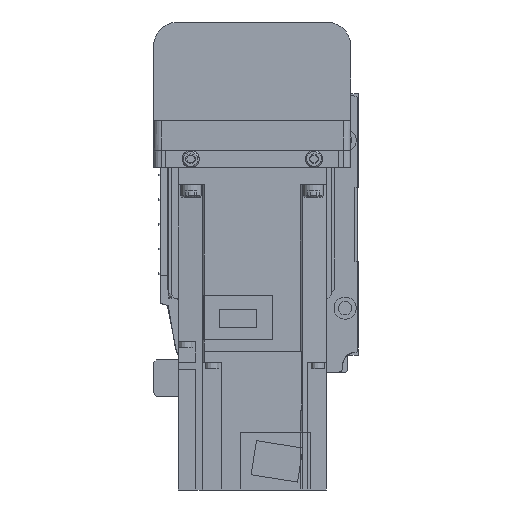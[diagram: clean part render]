
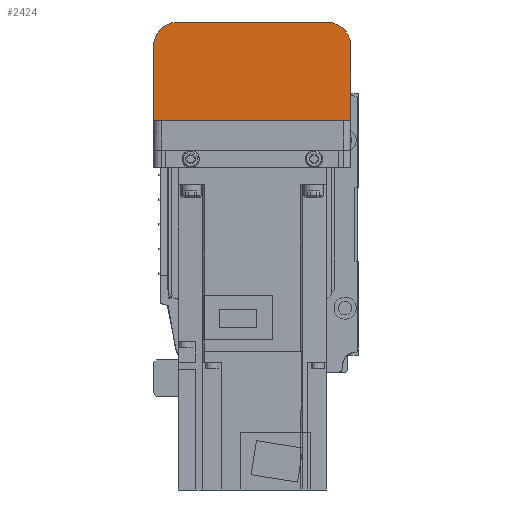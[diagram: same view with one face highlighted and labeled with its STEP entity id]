
A CAD part, left-side view. The second image highlights one B-rep face of the part: STEP entity #2424.
In plain terms, the highlighted planar face has unit normal (-1, 0, 0).
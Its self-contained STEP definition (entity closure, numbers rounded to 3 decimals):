
#2424 = ADVANCED_FACE( '', ( #5036 ), #5037, .F. );
#5036 = FACE_OUTER_BOUND( '', #7644, .T. );
#5037 = PLANE( '', #7645 );
#7644 = EDGE_LOOP( '', ( #14178, #14179, #14180, #14181, #14182, #14183 ) );
#7645 = AXIS2_PLACEMENT_3D( '', #14184, #14185, #14186 );
#14178 = ORIENTED_EDGE( '', *, *, #15048, .F. );
#14179 = ORIENTED_EDGE( '', *, *, #14653, .F. );
#14180 = ORIENTED_EDGE( '', *, *, #15185, .F. );
#14181 = ORIENTED_EDGE( '', *, *, #16580, .F. );
#14182 = ORIENTED_EDGE( '', *, *, #16917, .F. );
#14183 = ORIENTED_EDGE( '', *, *, #16550, .F. );
#14184 = CARTESIAN_POINT( '', ( -192., 37., 7. ) );
#14185 = DIRECTION( '', ( 1., 0., 0. ) );
#14186 = DIRECTION( '', ( 0., 0., -1. ) );
#14653 = EDGE_CURVE( '', #17370, #17372, #17373, .T. );
#15048 = EDGE_CURVE( '', #17372, #17357, #18042, .T. );
#15185 = EDGE_CURVE( '', #18268, #17370, #18270, .T. );
#16550 = EDGE_CURVE( '', #17357, #20307, #20308, .T. );
#16580 = EDGE_CURVE( '', #20349, #18268, #20351, .T. );
#16917 = EDGE_CURVE( '', #20307, #20349, #20742, .T. );
#17357 = VERTEX_POINT( '', #21279 );
#17370 = VERTEX_POINT( '', #21298 );
#17372 = VERTEX_POINT( '', #21301 );
#17373 = LINE( '', #21302, #21303 );
#18042 = LINE( '', #22188, #22189 );
#18268 = VERTEX_POINT( '', #22485 );
#18270 = CIRCLE( '', #22488, 10. );
#20307 = VERTEX_POINT( '', #25220 );
#20308 = LINE( '', #25221, #25222 );
#20349 = VERTEX_POINT( '', #25271 );
#20351 = LINE( '', #25274, #25275 );
#20742 = CIRCLE( '', #25780, 10. );
#21279 = CARTESIAN_POINT( '', ( -192., -40., -12.1 ) );
#21298 = CARTESIAN_POINT( '', ( -192., 40., -42. ) );
#21301 = CARTESIAN_POINT( '', ( -192., 40., -12.1 ) );
#21302 = CARTESIAN_POINT( '', ( -192., 40., -42. ) );
#21303 = VECTOR( '', #26160, 1000. );
#22188 = CARTESIAN_POINT( '', ( -192., 50., -12.1 ) );
#22189 = VECTOR( '', #26635, 1000. );
#22485 = CARTESIAN_POINT( '', ( -192., 30., -52. ) );
#22488 = AXIS2_PLACEMENT_3D( '', #26824, #26825, #26826 );
#25220 = CARTESIAN_POINT( '', ( -192., -40., -42. ) );
#25221 = CARTESIAN_POINT( '', ( -192., -40., -12.1 ) );
#25222 = VECTOR( '', #28506, 1000. );
#25271 = CARTESIAN_POINT( '', ( -192., -30., -52. ) );
#25274 = CARTESIAN_POINT( '', ( -192., -30., -52. ) );
#25275 = VECTOR( '', #28546, 1000. );
#25780 = AXIS2_PLACEMENT_3D( '', #28856, #28857, #28858 );
#26160 = DIRECTION( '', ( 0., 0., 1. ) );
#26635 = DIRECTION( '', ( 0., -1., 0. ) );
#26824 = CARTESIAN_POINT( '', ( -192., 30., -42. ) );
#26825 = DIRECTION( '', ( 1., 0., 0. ) );
#26826 = DIRECTION( '', ( 0., 0., -1. ) );
#28506 = DIRECTION( '', ( 0., 0., -1. ) );
#28546 = DIRECTION( '', ( 0., 1., 0. ) );
#28856 = CARTESIAN_POINT( '', ( -192., -30., -42. ) );
#28857 = DIRECTION( '', ( 1., 0., 0. ) );
#28858 = DIRECTION( '', ( 0., 0., -1. ) );
